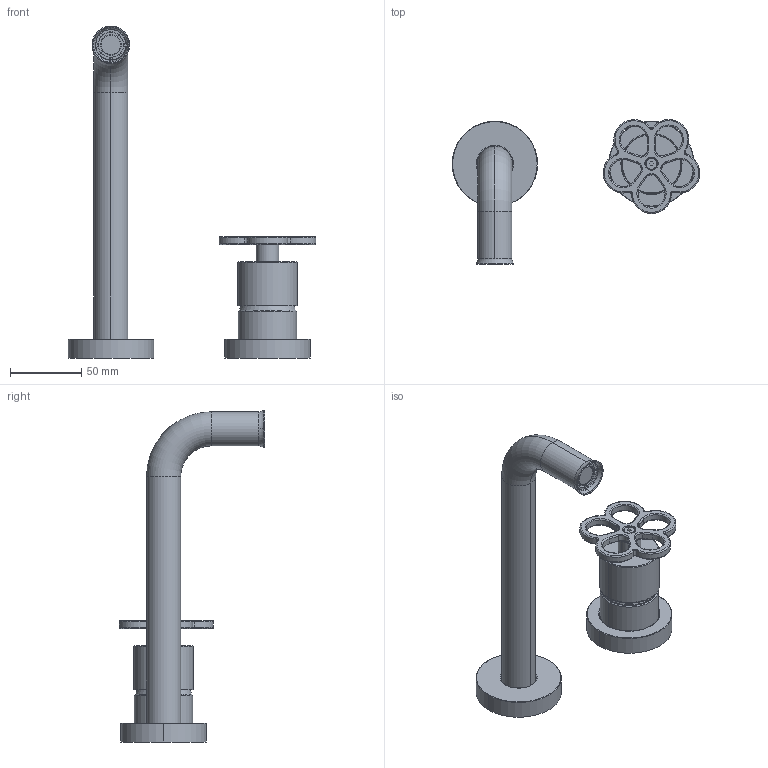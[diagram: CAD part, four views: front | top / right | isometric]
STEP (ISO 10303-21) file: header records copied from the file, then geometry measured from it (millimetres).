
FILE_DESCRIPTION((''),'2;1');
FILE_NAME('20930T513B000000_SW0001_1_ASM','2026-02-04T08:22:44',('ufftecnico'),(''),'CREO PARAMETRIC BY PTC INC, 2025010','CREO PARAMETRIC BY PTC INC, 2025010','');
FILE_SCHEMA(('AUTOMOTIVE_DESIGN { 1 0 10303 214 1 1 1 1 }'));
Length unit declared in the file: millimetre
Products named in the file (4): 20930T513B000000_SW0001_1_1; 20930T513B000000_SW0001_1_2; 20930T513B000000_SW0001_1_3; 20930T513B000000_SW0001_1_ASM
Assembly tree (3 placements, depth 2):
  20930T513B000000_SW0001_1_ASM
    20930T513B000000_SW0001_1_1
    20930T513B000000_SW0001_1_2
    20930T513B000000_SW0001_1_3
Bounding box: 173.95 x 102.03 x 233.22 mm (x, y, z)
Volume: 190830.2 mm3; surface area: 75980.6 mm2
Topology: 3 solids, 6 shells, 301 faces, 806 edges, 533 vertices
Faces by surface type: cylinder 108, plane 87, torus 78, cone 26, bspline 2
Entity records: 12429 total; most frequent: DIRECTION 2052, CARTESIAN_POINT 1794, ORIENTED_EDGE 1608, AXIS2_PLACEMENT_3D 895, EDGE_CURVE 804, CIRCLE 554, VERTEX_POINT 533, EDGE_LOOP 333
